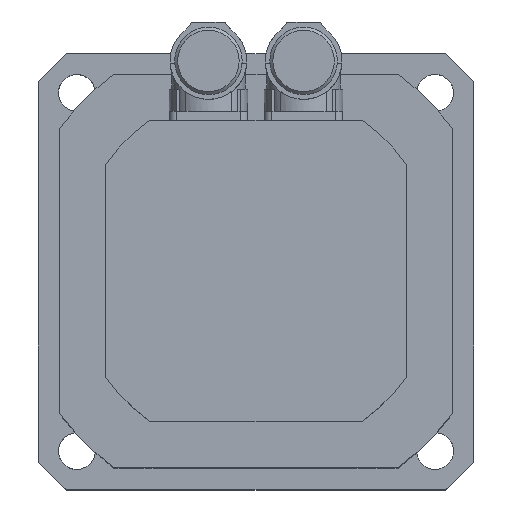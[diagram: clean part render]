
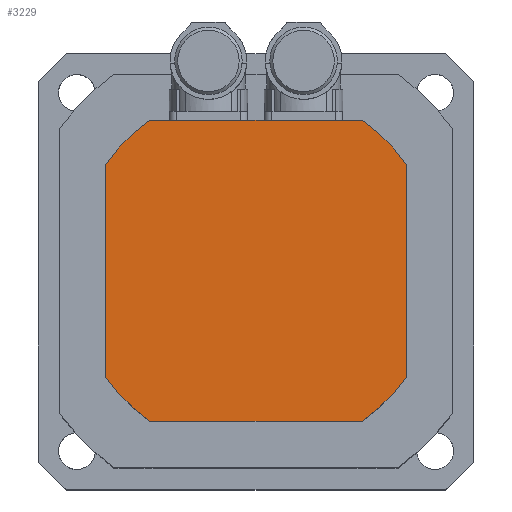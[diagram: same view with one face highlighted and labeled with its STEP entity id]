
A CAD part, top view. The second image highlights one B-rep face of the part: STEP entity #3229.
In plain terms, the highlighted planar face has unit normal (0, 0, 1).
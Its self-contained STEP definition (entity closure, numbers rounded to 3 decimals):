
#640=CIRCLE('',#3437,60.);
#641=CIRCLE('',#3439,60.);
#642=CIRCLE('',#3441,60.);
#643=CIRCLE('',#3443,60.);
#822=VERTEX_POINT('',#5116);
#824=VERTEX_POINT('',#5119);
#867=VERTEX_POINT('',#5248);
#868=VERTEX_POINT('',#5250);
#871=VERTEX_POINT('',#5259);
#872=VERTEX_POINT('',#5261);
#876=VERTEX_POINT('',#5275);
#877=VERTEX_POINT('',#5277);
#1097=VECTOR('',#3883,1.);
#1157=VECTOR('',#3976,1.);
#1163=VECTOR('',#3983,1.);
#1168=VECTOR('',#3998,1.);
#1328=LINE('',#5118,#1097);
#1388=LINE('',#5249,#1157);
#1394=LINE('',#5260,#1163);
#1399=LINE('',#5276,#1168);
#1617=EDGE_CURVE('',#824,#822,#1328,.T.);
#1681=EDGE_CURVE('',#868,#867,#1388,.T.);
#1687=EDGE_CURVE('',#872,#871,#1394,.T.);
#1696=EDGE_CURVE('',#877,#876,#1399,.T.);
#1698=EDGE_CURVE('',#872,#876,#640,.T.);
#1699=EDGE_CURVE('',#824,#871,#641,.T.);
#1700=EDGE_CURVE('',#868,#822,#642,.T.);
#1701=EDGE_CURVE('',#877,#867,#643,.T.);
#2346=ORIENTED_EDGE('',*,*,#1681,.T.);
#2347=ORIENTED_EDGE('',*,*,#1701,.F.);
#2348=ORIENTED_EDGE('',*,*,#1696,.T.);
#2349=ORIENTED_EDGE('',*,*,#1698,.F.);
#2350=ORIENTED_EDGE('',*,*,#1687,.T.);
#2351=ORIENTED_EDGE('',*,*,#1699,.F.);
#2352=ORIENTED_EDGE('',*,*,#1617,.T.);
#2353=ORIENTED_EDGE('',*,*,#1700,.F.);
#2829=EDGE_LOOP('',(#2346,#2347,#2348,#2349,#2350,#2351,#2352,#2353));
#3043=FACE_BOUND('',#2829,.T.);
#3229=ADVANCED_FACE('',(#3043),#6146,.F.);
#3437=AXIS2_PLACEMENT_3D('',#5280,#4002,#4003);
#3439=AXIS2_PLACEMENT_3D('',#5282,#4006,#4007);
#3441=AXIS2_PLACEMENT_3D('',#5284,#4010,#4011);
#3443=AXIS2_PLACEMENT_3D('',#5286,#4014,#4015);
#3444=AXIS2_PLACEMENT_3D('',#5287,#4016,$);
#3883=DIRECTION('',(-1.,0.,0.));
#3976=DIRECTION('',(0.,-1.,0.));
#3983=DIRECTION('',(0.,1.,0.));
#3998=DIRECTION('',(1.,0.,0.));
#4002=DIRECTION('',(0.,0.,-1.));
#4003=DIRECTION('',(-60.,0.,0.));
#4006=DIRECTION('',(0.,0.,-1.));
#4007=DIRECTION('',(-60.,0.,0.));
#4010=DIRECTION('',(0.,0.,-1.));
#4011=DIRECTION('',(-60.,0.,0.));
#4014=DIRECTION('',(0.,0.,-1.));
#4015=DIRECTION('',(-60.,0.,0.));
#4016=DIRECTION('',(0.,0.,-1.));
#5116=CARTESIAN_POINT('',(-34.627,49.,31.5));
#5118=CARTESIAN_POINT('',(34.627,49.,31.5));
#5119=CARTESIAN_POINT('',(34.627,49.,31.5));
#5248=CARTESIAN_POINT('',(-49.,-34.627,31.5));
#5249=CARTESIAN_POINT('',(-49.,34.627,31.5));
#5250=CARTESIAN_POINT('',(-49.,34.627,31.5));
#5259=CARTESIAN_POINT('',(49.,34.627,31.5));
#5260=CARTESIAN_POINT('',(49.,-34.627,31.5));
#5261=CARTESIAN_POINT('',(49.,-34.627,31.5));
#5275=CARTESIAN_POINT('',(34.627,-49.,31.5));
#5276=CARTESIAN_POINT('',(-34.627,-49.,31.5));
#5277=CARTESIAN_POINT('',(-34.627,-49.,31.5));
#5280=CARTESIAN_POINT('',(0.,0.,31.5));
#5282=CARTESIAN_POINT('',(0.,0.,31.5));
#5284=CARTESIAN_POINT('',(0.,0.,31.5));
#5286=CARTESIAN_POINT('',(0.,0.,31.5));
#5287=CARTESIAN_POINT('',(0.,0.,31.5));
#6146=PLANE('',#3444);
